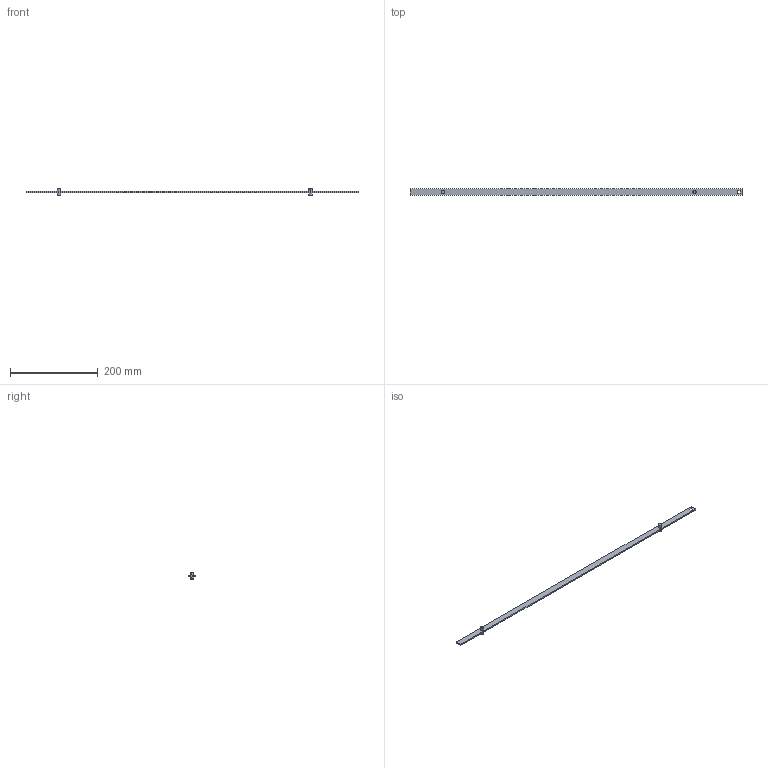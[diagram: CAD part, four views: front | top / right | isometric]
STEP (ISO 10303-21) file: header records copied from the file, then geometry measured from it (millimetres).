
FILE_DESCRIPTION (( 'STEP AP214' ), '1' );
FILE_NAME ('PK28-751.STEP', '2016-08-18T09:53:37', ( 'RST-Dolba' ), ( '' ), 'SwSTEP 2.0', 'SolidWorks 2015', '' );
FILE_SCHEMA (( 'AUTOMOTIVE_DESIGN' ));
Length unit declared in the file: millimetre
Products named in the file (4): 1C.PDB.02.02.00_A; 1C.PDB.02.01.00_A; 1C.PD.B.Z.X.Y.01_PK28-751; PK28-751
Assembly tree (5 placements, depth 2):
  PK28-751
    1C.PD.B.Z.X.Y.01_PK28-751
    1C.PDB.02.01.00_A  x2
    1C.PDB.02.02.00_A  x2
Bounding box: 758.5 x 14 x 18.1 mm (x, y, z)
Volume: 33241.3 mm3; surface area: 27442.9 mm2
Topology: 5 solids, 5 shells, 74 faces, 156 edges, 94 vertices
Faces by surface type: cylinder 28, cone 24, plane 22
Entity records: 1378 total; most frequent: DIRECTION 240, CARTESIAN_POINT 205, ORIENTED_EDGE 188, AXIS2_PLACEMENT_3D 94, EDGE_CURVE 94, VERTEX_POINT 59, EDGE_LOOP 55, LINE 52
